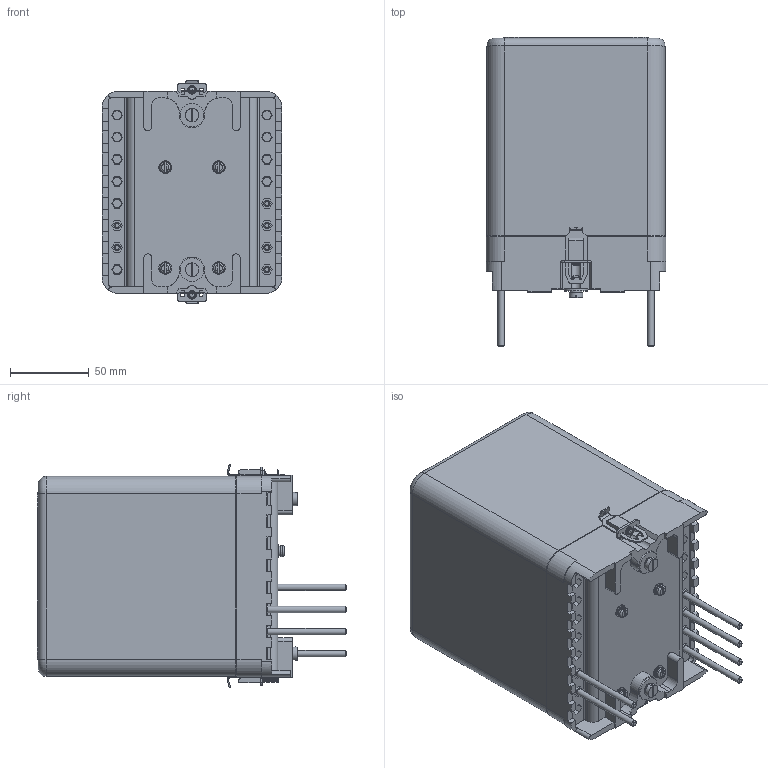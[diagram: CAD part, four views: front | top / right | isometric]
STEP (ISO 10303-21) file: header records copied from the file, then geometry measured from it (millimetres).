
FILE_DESCRIPTION(('STEP AP203'), '1');
FILE_NAME('ÐÍÍ 57 ç.ï.øï.', '', ('UNSPECIFIED'), ('UNSPECIFIED'), 'ASCON STEP Converter 1.3', 'ASCON Math Kernel', '');
FILE_SCHEMA(('CONFIG_CONTROL_DESIGN'));
Length unit declared in the file: millimetre
Bounding box: 114 x 196 x 141.51 mm (x, y, z)
Volume: 312297.1 mm3; surface area: 205644 mm2
Topology: 2 solids, 2 shells, 841 faces, 2214 edges, 1424 vertices
Faces by surface type: plane 541, cylinder 220, torus 38, cone 26, bspline 14, sphere 2
Full cylindrical faces by diameter (mm): 2 x2, 3.242 x6, 3.5 x2, 4 x16, 4.134 x2, 4.5 x4, 5 x2, 5.3 x2, 5.5 x22, 8 x4, 8.5 x2, 11 x2, 15 x2
Entity records: 42303 total; most frequent: CARTESIAN_POINT 14984, DIRECTION 4190, ORIENTED_EDGE 4184, EDGE_CURVE 2092, VERTEX_POINT 1418, LINE 1412, VECTOR 1412, AXIS2_PLACEMENT_3D 1389
